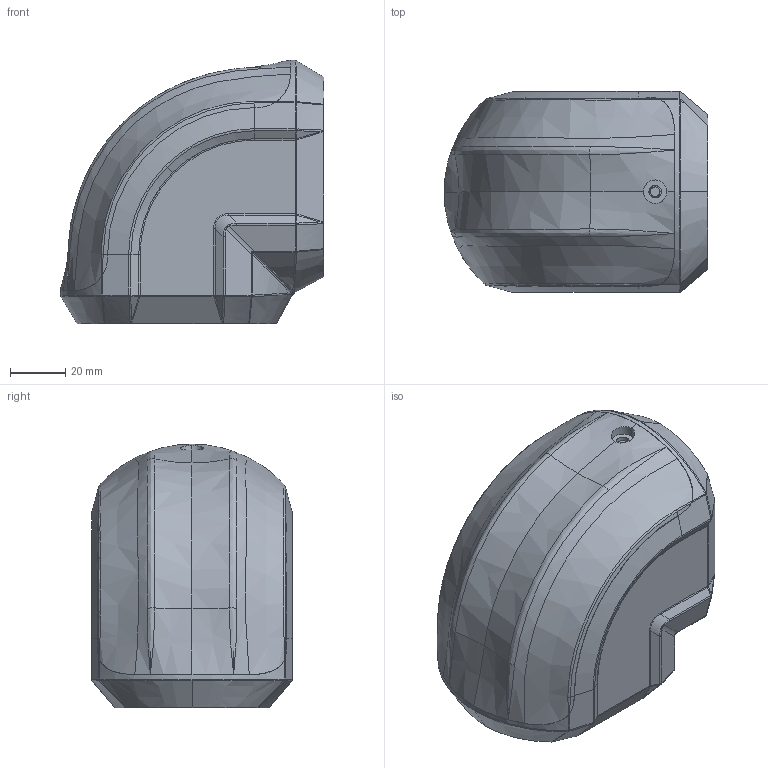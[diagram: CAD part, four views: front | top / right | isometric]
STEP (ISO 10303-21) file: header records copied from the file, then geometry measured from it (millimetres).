
FILE_DESCRIPTION (( 'STEP AP203' ), '1' );
FILE_NAME ('50-65-5010.STEP', '2019-10-03T05:24:10', ( 'User' ), ( 'Microsoft' ), 'SwSTEP 2.0', 'SolidWorks 2017', '' );
FILE_SCHEMA (( 'CONFIG_CONTROL_DESIGN' ));
Length unit declared in the file: millimetre
Products named in the file (3): 50裔赽; 50-65-5010; 50-蛌褒
Assembly tree (2 placements, depth 2):
  50-65-5010
    50-蛌褒
    50裔赽
Bounding box: 95.1 x 72.45 x 95.1 mm (x, y, z)
Volume: 159425.5 mm3; surface area: 63912.7 mm2
Topology: 2 solids, 2 shells, 570 faces, 1449 edges, 873 vertices
Faces by surface type: bspline 254, cylinder 191, plane 113, cone 8, torus 4
Entity records: 44368 total; most frequent: CARTESIAN_POINT 32459, ORIENTED_EDGE 2870, DIRECTION 1660, EDGE_CURVE 1435, VERTEX_POINT 873, B_SPLINE_CURVE_WITH_KNOTS 681, AXIS2_PLACEMENT_3D 601, EDGE_LOOP 596
